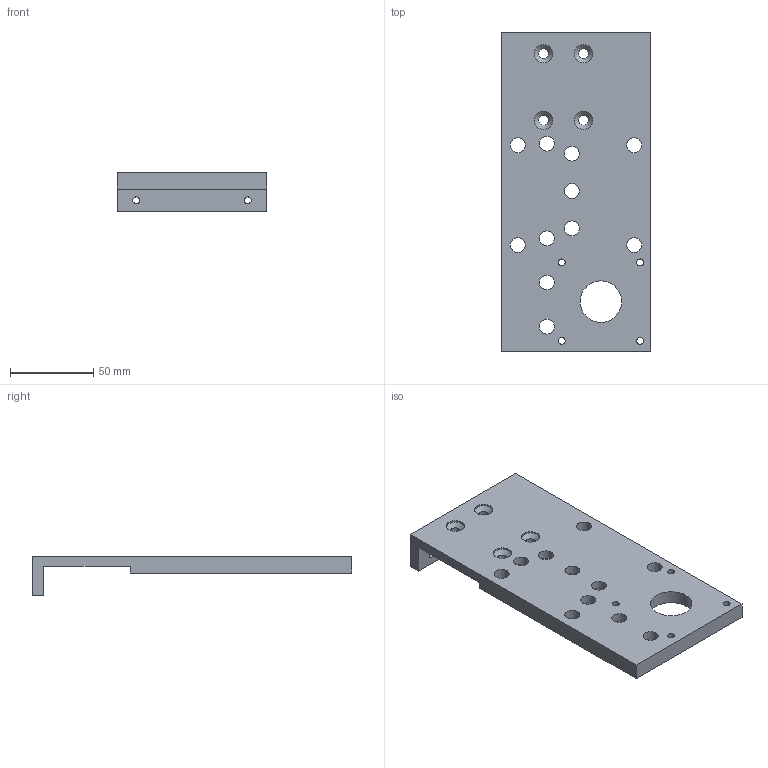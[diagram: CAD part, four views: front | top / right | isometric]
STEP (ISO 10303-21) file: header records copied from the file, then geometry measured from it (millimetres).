
FILE_DESCRIPTION(('STEP AP203'), '1');
FILE_NAME('ÊÀÐØÊ03.01.00.02 - Ïëàñòèíà@Íåñòàíäàðòíûé ëèñò@110 x 190,2 S = 23,5 ìì', '', ('UNSPECIFIED'), ('UNSPECIFIED'), 'C3D Converter', 'C3D Toolkit', '');
FILE_SCHEMA(('CONFIG_CONTROL_DESIGN'));
Length unit declared in the file: millimetre
Products named in the file (1): КАРШК03.01.00.02
Bounding box: 90 x 192.2 x 23.5 mm (x, y, z)
Volume: 144581.1 mm3; surface area: 45144.2 mm2
Topology: 1 solids, 1 shells, 49 faces, 152 edges, 115 vertices
Faces by surface type: cylinder 27, plane 11, cone 11
Full cylindrical faces by diameter (mm): 4.134 x4, 4.2 x2, 6 x4, 9 x11, 11 x4, 25 x1, 38.1 x1
Entity records: 3886 total; most frequent: CARTESIAN_POINT 2453, DIRECTION 287, ORIENTED_EDGE 188, AXIS2_PLACEMENT_3D 131, EDGE_LOOP 129, EDGE_CURVE 94, VERTEX_POINT 83, CIRCLE 81
